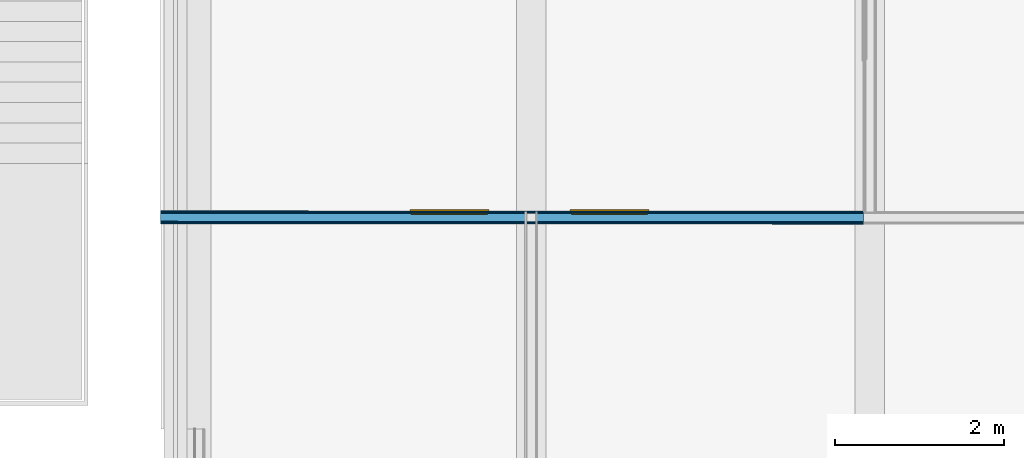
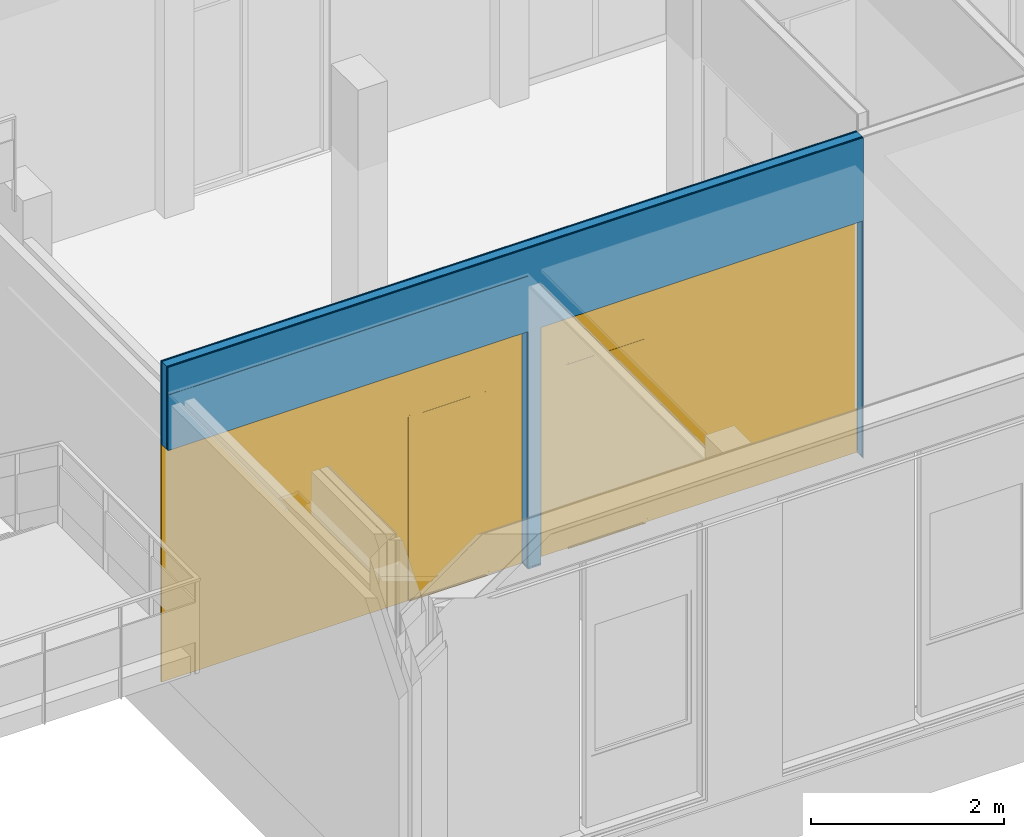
# One storey, part 76 of 94: 5 building element parts, 2 doors, 2 openings, 1 element without a shape of its own.
"""IFC2X3 building model written with IfcOpenShell, lengths in millimetres."""

from ifc_helpers import new_model, entity, si_unit, converted_unit, derived_unit, money_unit, direction, frame, origin_with_axes, place, context, subcontext, project, spatial, open_shell, faceted_brep, surface_model, material, type_object, element, fill, aggregate, save


model = new_model("IFC2X3")

# Units and contexts
model_context = context("Model", 3, precision=0.01, world=origin_with_axes(), true_north=direction((0.0, 1.0)))
body_context = subcontext(model_context, "Body", "Model", "MODEL_VIEW")
ifc_project = project(units=[si_unit("LENGTHUNIT", "METRE", prefix="MILLI"), si_unit("AREAUNIT", "SQUARE_METRE"), si_unit("VOLUMEUNIT", "CUBIC_METRE"), converted_unit("PLANEANGLEUNIT", "DEGREE", entity("IfcPlaneAngleMeasure", 0.0174532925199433), si_unit("PLANEANGLEUNIT", "RADIAN"), dimensions=[0, 0, 0, 0, 0, 0, 0]), money_unit("EUR"), converted_unit("TIMEUNIT", "Year", entity("IfcTimeMeasure", 31557600.0), si_unit("TIMEUNIT", "SECOND"), dimensions=[0, 0, 1, 0, 0, 0, 0]), si_unit("MASSUNIT", "GRAM", prefix="KILO"), si_unit("THERMODYNAMICTEMPERATUREUNIT", "DEGREE_CELSIUS"), si_unit("LUMINOUSINTENSITYUNIT", "LUMEN"), si_unit("ENERGYUNIT", "JOULE", prefix="MEGA"), derived_unit("THERMALCONDUCTANCEUNIT", [(si_unit("POWERUNIT", "WATT"), 1), (si_unit("LENGTHUNIT", "METRE"), -1), (si_unit("THERMODYNAMICTEMPERATUREUNIT", "KELVIN"), -1)]), derived_unit("SPECIFICHEATCAPACITYUNIT", [(si_unit("ENERGYUNIT", "JOULE"), 1), (si_unit("MASSUNIT", "GRAM", prefix="KILO"), -1), (si_unit("THERMODYNAMICTEMPERATUREUNIT", "KELVIN"), -1)]), derived_unit("MASSDENSITYUNIT", [(si_unit("MASSUNIT", "GRAM", prefix="KILO"), 1), (si_unit("VOLUMEUNIT", "CUBIC_METRE"), -1)])], contexts=[model_context])

# Site, building, storey
site_placement = place(None, origin_with_axes())
site = spatial("IfcSite", under=ifc_project, at=site_placement, Name="<site naam>", CompositionType="ELEMENT")
building_placement = place(site_placement, origin_with_axes())
building = spatial("IfcBuilding", under=site, at=building_placement, Name="<Naam gebouw>", CompositionType="ELEMENT")
storey_placement = place(building_placement, frame((0.0, 0.0, 4250.0), z_axis=(0.0, 0.0, 1.0), x_axis=(1.0, 0.0, 0.0)))
storey = spatial("IfcBuildingStorey", under=building, at=storey_placement, Name="01 1e verdieping", CompositionType="ELEMENT", Elevation=4250.0)

# Door
door_style = type_object("IfcDoorStyle", Name="D1 bl zl2 27", ConstructionType="NOTDEFINED", OperationType="USERDEFINED", ParameterTakesPrecedence=False, Sizeable=False)
wall_placement = place(storey_placement, frame((20000.00000000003, 4524.999967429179, 0.0), z_axis=(0.0, 0.0, 1.0), x_axis=(-0.9999997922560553, 0.0006445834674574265, 0.0)))
opening_2_placement = place(wall_placement, frame((2000.00002643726, 0.0, 0.0), z_axis=(0.0, 0.0, 1.0), x_axis=(1.0, 0.0, 0.0)))
door_1_placement = place(opening_2_placement, frame((1925.000026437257, 0.0, 0.0), z_axis=(0.0, 0.0, 1.0), x_axis=(-1.0, 0.0, 0.0)))
door_1 = element("IfcDoor", 1, at=door_1_placement, inside=storey, type_object=door_style, Name="22_BI-F-13_305", ObjectType="DOOR", OverallHeight=3000.0, OverallWidth=3850.0, context=body_context, shape_type="SurfaceModel", body=[
    faceted_brep([(1317.000000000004, -39.99999999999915, 0.0), (1300.000000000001, -39.99999999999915, 0.0), (1300.000000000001, -39.99999999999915, 11.99999999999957), (1317.000000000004, -39.99999999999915, 11.99999999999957), (383.0000000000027, -39.99999999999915, 0.0), (399.9999999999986, -39.99999999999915, 0.0), (400.0000000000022, -20.00000000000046, 0.0), (1300.000000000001, -19.99999999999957, 0.0), (1300.000000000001, -19.99999999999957, 11.99999999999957), (400.0000000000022, -20.00000000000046, 11.99999999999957), (399.9999999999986, -39.99999999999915, 11.99999999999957), (383.0000000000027, -39.99999999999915, 11.99999999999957)], [[[0, 1, 2, 3]], [[0, 4, 5, 6, 7, 1]], [[1, 7, 8, 2]], [[3, 2, 8, 9, 10, 11]], [[4, 0, 3, 11]], [[5, 4, 11, 10]], [[6, 5, 10, 9]], [[7, 6, 9, 8]]]),
    faceted_brep([(3850.000052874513, 0.0, 0.0), (3850.000052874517, -20.00000000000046, 0.0), (3817.000052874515, -20.00000000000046, 0.0), (3817.000052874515, 0.0, 0.0), (3850.000052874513, 0.0, 2967.0), (3850.000052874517, -20.00000000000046, 2967.0), (3817.000052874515, -20.00000000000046, 2967.0), (3817.000052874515, -20.00000000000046, 33.00000000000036), (3817.000052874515, 0.0, 33.00000000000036), (3817.000052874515, 0.0, 2967.0)], [[[0, 1, 2, 3]], [[4, 5, 1, 0]], [[1, 5, 6, 7, 2]], [[3, 2, 7, 8]], [[0, 3, 8, 9, 4]], [[9, 6, 5, 4]], [[8, 7, 6, 9]]]),
    faceted_brep([(1317.000000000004, -19.99999999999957, 0.0), (1341.999999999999, -20.00000000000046, 0.0), (1341.999999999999, -20.00000000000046, 32.99999999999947), (1341.999999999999, -20.00000000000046, 2967.0), (1300.000000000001, -20.00000000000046, 2967.0), (1300.000000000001, -20.00000000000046, 2333.0), (1300.000000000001, -20.00000000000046, 2317.0), (1317.000000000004, -19.99999999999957, 2317.0), (1317.000000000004, 0.0, 0.0), (1342.000000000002, 0.0, 0.0), (1342.000000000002, 0.0, 32.99999999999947), (1342.000000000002, 0.0, 2967.0), (1300.000000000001, 0.0, 2967.0), (1300.000000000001, 0.0, 2333.0), (1300.000000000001, 0.0, 2317.0), (1317.000000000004, 0.0, 2317.0)], [[[0, 1, 2, 3, 4, 5, 6, 7]], [[8, 9, 1, 0]], [[9, 10, 2, 1]], [[10, 11, 3, 2]], [[11, 12, 4, 3]], [[12, 13, 5, 4]], [[6, 5, 13, 14]], [[14, 15, 7, 6]], [[7, 15, 8, 0]], [[15, 14, 13, 12, 11, 10, 9, 8]]]),
    faceted_brep([(3817.000052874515, 0.0, 33.00000000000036), (3817.000052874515, -20.00000000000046, 33.00000000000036), (3817.000052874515, -20.00000000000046, 0.0), (3817.000052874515, 0.0, 0.0), (1342.000000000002, 0.0, 33.00000000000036), (1341.999999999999, -20.00000000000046, 33.00000000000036), (1341.999999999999, -20.00000000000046, 0.0), (1342.000000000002, 0.0, 0.0)], [[[0, 1, 2, 3]], [[4, 5, 1, 0]], [[1, 5, 6, 2]], [[3, 2, 6, 7]], [[0, 3, 7, 4]], [[7, 6, 5, 4]]]),
    faceted_brep([(0.0, 0.0, 0.0), (0.0, -19.99999999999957, 0.0), (0.0, -20.00000000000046, 2967.0), (0.0, 0.0, 2967.0), (33.00000000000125, 0.0, 0.0), (33.0000000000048, -19.99999999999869, 0.0), (33.0000000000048, -19.99999999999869, 33.00000000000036), (33.0000000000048, -19.99999999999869, 2967.0), (33.00000000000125, 0.0, 2967.0), (33.00000000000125, 0.0, 33.00000000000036)], [[[0, 1, 2, 3]], [[4, 5, 1, 0]], [[1, 5, 6, 7, 2]], [[3, 2, 7, 8]], [[0, 3, 8, 9, 4]], [[9, 6, 5, 4]], [[8, 7, 6, 9]]]),
    faceted_brep([(383.0000000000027, -19.99999999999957, 2317.0), (400.0000000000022, -20.00000000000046, 2317.0), (400.0000000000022, -20.00000000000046, 2333.0), (400.0000000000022, -20.00000000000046, 2967.0), (358.0000000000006, -19.99999999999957, 2967.0), (358.0000000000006, -19.99999999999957, 32.99999999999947), (358.0000000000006, -19.99999999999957, 0.0), (383.0000000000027, -19.99999999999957, 0.0), (382.9999999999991, 0.0, 2317.0), (400.0000000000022, 0.0, 2317.0), (400.0000000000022, 0.0, 2333.0), (400.0000000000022, 0.0, 2967.0), (358.0000000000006, 0.0, 2967.0), (358.0000000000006, 0.0, 32.99999999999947), (358.0000000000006, 0.0, 0.0), (382.9999999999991, 0.0, 0.0)], [[[0, 1, 2, 3, 4, 5, 6, 7]], [[0, 8, 9, 1]], [[9, 10, 2, 1]], [[10, 11, 3, 2]], [[11, 12, 4, 3]], [[12, 13, 5, 4]], [[13, 14, 6, 5]], [[7, 6, 14, 15]], [[7, 15, 8, 0]], [[8, 15, 14, 13, 12, 11, 10, 9]]]),
    faceted_brep([(358.0000000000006, 0.0, 33.00000000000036), (358.0000000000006, -19.99999999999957, 33.00000000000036), (358.0000000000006, -19.99999999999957, 0.0), (358.0000000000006, 0.0, 0.0), (33.00000000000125, 0.0, 33.00000000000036), (33.0000000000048, -19.99999999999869, 33.00000000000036), (33.0000000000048, -19.99999999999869, 0.0), (33.00000000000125, 0.0, 0.0)], [[[0, 1, 2, 3]], [[4, 5, 1, 0]], [[1, 5, 6, 2]], [[3, 2, 6, 7]], [[0, 3, 7, 4]], [[7, 6, 5, 4]]]),
    faceted_brep([(3850.000052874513, 0.0, 3000.0), (3850.000052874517, -20.00000000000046, 3000.0), (3850.000052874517, -20.00000000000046, 2967.0), (3850.000052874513, 0.0, 2967.0), (0.0, 0.0, 3000.0), (0.0, -20.00000000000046, 3000.0), (0.0, -20.00000000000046, 2967.0), (33.0000000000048, -19.99999999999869, 2967.0), (358.0000000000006, -19.99999999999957, 2967.0), (400.0000000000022, -20.00000000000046, 2967.0), (1300.000000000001, -20.00000000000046, 2967.0), (1341.999999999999, -20.00000000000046, 2967.0), (3817.000052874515, -20.00000000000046, 2967.0), (3817.000052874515, 0.0, 2967.0), (1342.000000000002, 0.0, 2967.0), (1300.000000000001, 0.0, 2967.0), (400.0000000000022, 0.0, 2967.0), (358.0000000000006, 0.0, 2967.0), (33.00000000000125, 0.0, 2967.0), (0.0, 0.0, 2967.0)], [[[0, 1, 2, 3]], [[4, 5, 1, 0]], [[1, 5, 6, 7, 8, 9, 10, 11, 12, 2]], [[3, 2, 12, 13]], [[0, 3, 13, 14, 15, 16, 17, 18, 19, 4]], [[19, 6, 5, 4]], [[18, 7, 6, 19]], [[17, 8, 7, 18]], [[16, 9, 8, 17]], [[15, 10, 9, 16]], [[14, 11, 10, 15]], [[13, 12, 11, 14]]]),
    faceted_brep([(1300.000000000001, -20.00000000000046, 2317.0), (1300.000000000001, -20.00000000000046, 2333.0), (400.0000000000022, -20.00000000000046, 2333.0), (400.0000000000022, -20.00000000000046, 2317.0), (1300.000000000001, 0.0, 2317.0), (1300.000000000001, 0.0, 2333.0), (400.0000000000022, 0.0, 2333.0), (400.0000000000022, 0.0, 2317.0)], [[[0, 1, 2, 3]], [[4, 5, 1, 0]], [[5, 6, 2, 1]], [[3, 2, 6, 7]], [[7, 4, 0, 3]], [[7, 6, 5, 4]]]),
    faceted_brep([(383.0000000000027, 18.00000000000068, 0.0), (1317.0, 17.99999999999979, 0.0), (1317.000000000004, -22.00000000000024, 0.0), (383.0000000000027, -21.99999999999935, 0.0), (383.0000000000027, 17.99999999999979, 2317.0), (1317.0, 17.99999999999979, 2317.0), (1317.000000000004, -22.00000000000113, 2317.0), (383.0000000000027, -21.99999999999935, 2317.0)], [[[0, 1, 2, 3]], [[0, 4, 5, 1]], [[1, 5, 6, 2]], [[3, 2, 6, 7]], [[4, 0, 3, 7]], [[5, 4, 7, 6]]]),
    surface_model("IfcShellBasedSurfaceModel", [(1300.000000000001, -25.9999999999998, 2333.0), (1300.000000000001, -25.9999999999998, 2967.0), (399.9999999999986, -25.9999999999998, 2967.0), (399.9999999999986, -25.9999999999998, 2333.0)], [open_shell([[[0, 1, 2, 3]]])]),
    surface_model("IfcShellBasedSurfaceModel", [(1300.000000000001, -13.99999999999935, 2333.0), (400.0000000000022, -13.99999999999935, 2333.0), (400.0000000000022, -13.99999999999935, 2967.0), (1300.000000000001, -13.99999999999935, 2967.0)], [open_shell([[[0, 1, 2, 3]]])]),
    surface_model("IfcShellBasedSurfaceModel", [(3817.000052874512, -26.00000000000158, 33.00000000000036), (3817.000052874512, -26.00000000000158, 2967.0), (1342.000000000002, -25.9999999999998, 2967.0), (1342.000000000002, -25.9999999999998, 33.00000000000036)], [open_shell([[[0, 1, 2, 3]]])]),
    surface_model("IfcShellBasedSurfaceModel", [(3817.000052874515, -14.00000000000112, 33.00000000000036), (1342.000000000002, -13.99999999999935, 33.00000000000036), (1342.000000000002, -14.00000000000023, 2967.0), (3817.000052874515, -14.00000000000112, 2967.0)], [open_shell([[[0, 1, 2, 3]]])]),
    surface_model("IfcShellBasedSurfaceModel", [(358.0000000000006, -25.9999999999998, 33.00000000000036), (358.0000000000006, -25.9999999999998, 2967.0), (33.0000000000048, -25.9999999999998, 2967.0), (33.0000000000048, -25.9999999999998, 33.00000000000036)], [open_shell([[[0, 1, 2, 3]]])]),
    surface_model("IfcShellBasedSurfaceModel", [(358.0000000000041, -13.99999999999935, 33.00000000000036), (33.0000000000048, -14.00000000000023, 33.00000000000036), (33.0000000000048, -14.00000000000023, 2967.0), (358.0000000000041, -13.99999999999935, 2967.0)], [open_shell([[[0, 1, 2, 3]]])]),
])

opening_1_placement = place(wall_placement, frame((6225.265598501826, 0.0, 0.0), z_axis=(0.0, 0.0, 1.0), x_axis=(1.0, 0.0, 0.0)))
door_2_placement = place(opening_1_placement, frame((2150.265651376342, 0.0, 0.0), z_axis=(0.0, 0.0, 1.0), x_axis=(-1.0, 0.0, 0.0)))
door_2 = element("IfcDoor", 2, at=door_2_placement, inside=storey, type_object=door_style, Name="22_BI-F-12_305", ObjectType="DOOR", OverallHeight=3000.0, OverallWidth=4300.53, context=body_context, shape_type="SurfaceModel", body=[
    faceted_brep([(2943.333089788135, -39.99999999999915, 0.0), (2943.333089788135, -39.99999999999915, 11.99999999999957), (2960.333089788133, -39.99999999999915, 11.99999999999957), (2960.333089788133, -39.99999999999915, 0.0), (3877.333089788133, -40.00000000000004, 0.0), (3877.333089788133, -40.00000000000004, 11.99999999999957), (3860.333089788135, -40.00000000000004, 11.99999999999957), (3860.333089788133, -19.99999999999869, 11.99999999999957), (2960.333089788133, -19.99999999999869, 11.99999999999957), (2960.333089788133, -19.99999999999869, 0.0), (3860.333089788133, -19.99999999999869, 0.0), (3860.333089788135, -40.00000000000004, 0.0)], [[[0, 1, 2, 3]], [[4, 5, 1, 0]], [[1, 5, 6, 7, 8, 2]], [[3, 2, 8, 9]], [[0, 3, 9, 10, 11, 4]], [[11, 6, 5, 4]], [[10, 7, 6, 11]], [[9, 8, 7, 10]]]),
    faceted_brep([(0.0, 0.0, 0.0), (33.00000000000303, 0.0, 0.0), (33.00000000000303, -19.9999999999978, 0.0), (0.0, -19.99999999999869, 0.0), (0.0, 0.0, 2967.0), (33.00000000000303, 0.0, 2967.0), (33.00000000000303, 0.0, 33.00000000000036), (33.00000000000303, -19.9999999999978, 33.00000000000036), (33.00000000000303, -19.9999999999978, 2967.0), (0.0, -19.99999999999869, 2967.0)], [[[0, 1, 2, 3]], [[0, 4, 5, 6, 1]], [[1, 6, 7, 2]], [[3, 2, 7, 8, 9]], [[4, 0, 3, 9]], [[5, 4, 9, 8]], [[6, 5, 8, 7]]]),
    faceted_brep([(2943.333089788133, -19.99999999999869, 0.0), (2943.333089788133, -19.99999999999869, 2317.0), (2960.333089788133, -19.99999999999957, 2317.0), (2960.333089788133, -19.99999999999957, 2333.0), (2960.333089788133, -19.99999999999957, 2967.0), (2918.333089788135, -19.99999999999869, 2967.0), (2918.333089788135, -19.99999999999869, 32.99999999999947), (2918.333089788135, -19.99999999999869, 0.0), (2943.333089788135, 0.0, 0.0), (2943.333089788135, 0.0, 2317.0), (2960.333089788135, 0.0, 2317.0), (2960.333089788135, 0.0, 2333.0), (2960.333089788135, 0.0, 2967.0), (2918.333089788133, 0.0, 2967.0), (2918.333089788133, 0.0, 32.99999999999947), (2918.333089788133, 0.0, 0.0)], [[[0, 1, 2, 3, 4, 5, 6, 7]], [[1, 0, 8, 9]], [[10, 2, 1, 9]], [[2, 10, 11, 3]], [[12, 4, 3, 11]], [[13, 5, 4, 12]], [[14, 6, 5, 13]], [[15, 7, 6, 14]], [[8, 0, 7, 15]], [[9, 8, 15, 14, 13, 12, 11, 10]]]),
    faceted_brep([(33.00000000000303, 0.0, 33.00000000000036), (33.00000000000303, 0.0, 0.0), (33.00000000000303, -19.9999999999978, 0.0), (33.00000000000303, -19.9999999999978, 33.00000000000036), (2918.333089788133, 0.0, 33.00000000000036), (2918.333089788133, 0.0, 0.0), (2918.333089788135, -19.99999999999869, 0.0), (2918.333089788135, -19.99999999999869, 33.00000000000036)], [[[0, 1, 2, 3]], [[0, 4, 5, 1]], [[1, 5, 6, 2]], [[3, 2, 6, 7]], [[4, 0, 3, 7]], [[5, 4, 7, 6]]]),
    faceted_brep([(4300.531302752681, 0.0, 0.0), (4300.531302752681, 0.0, 2967.0), (4300.531302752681, -19.99999999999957, 2967.0), (4300.531302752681, -19.99999999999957, 0.0), (4267.53130275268, 0.0, 0.0), (4267.53130275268, 0.0, 33.00000000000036), (4267.53130275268, 0.0, 2967.0), (4267.531302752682, -19.99999999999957, 2967.0), (4267.531302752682, -19.99999999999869, 33.00000000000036), (4267.531302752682, -19.99999999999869, 0.0)], [[[0, 1, 2, 3]], [[0, 4, 5, 6, 1]], [[1, 6, 7, 2]], [[3, 2, 7, 8, 9]], [[4, 0, 3, 9]], [[5, 4, 9, 8]], [[6, 5, 8, 7]]]),
    faceted_brep([(3877.333089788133, -19.99999999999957, 2317.0), (3877.333089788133, -19.99999999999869, 0.0), (3902.333089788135, -19.99999999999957, 0.0), (3902.333089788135, -19.99999999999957, 32.99999999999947), (3902.333089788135, -19.99999999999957, 2967.0), (3860.333089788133, -19.99999999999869, 2967.0), (3860.333089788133, -19.99999999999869, 2333.0), (3860.333089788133, -19.99999999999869, 2317.0), (3877.333089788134, 0.0, 2317.0), (3877.333089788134, 0.0, 0.0), (3902.333089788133, 0.0, 0.0), (3902.333089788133, 0.0, 32.99999999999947), (3902.333089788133, 0.0, 2967.0), (3860.333089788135, 0.0, 2967.0), (3860.333089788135, 0.0, 2333.0), (3860.333089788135, 0.0, 2317.0)], [[[0, 1, 2, 3, 4, 5, 6, 7]], [[1, 0, 8, 9]], [[1, 9, 10, 2]], [[11, 3, 2, 10]], [[12, 4, 3, 11]], [[13, 5, 4, 12]], [[14, 6, 5, 13]], [[15, 7, 6, 14]], [[0, 7, 15, 8]], [[8, 15, 14, 13, 12, 11, 10, 9]]]),
    faceted_brep([(3902.333089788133, 0.0, 33.00000000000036), (3902.333089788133, 0.0, 0.0), (3902.333089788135, -19.99999999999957, 0.0), (3902.333089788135, -19.99999999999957, 33.00000000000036), (4267.53130275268, 0.0, 33.00000000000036), (4267.53130275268, 0.0, 0.0), (4267.531302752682, -19.99999999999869, 0.0), (4267.531302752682, -19.99999999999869, 33.00000000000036)], [[[0, 1, 2, 3]], [[0, 4, 5, 1]], [[1, 5, 6, 2]], [[3, 2, 6, 7]], [[4, 0, 3, 7]], [[5, 4, 7, 6]]]),
    faceted_brep([(0.0, 0.0, 3000.0), (0.0, 0.0, 2967.0), (0.0, -19.99999999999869, 2967.0), (0.0, -19.99999999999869, 3000.0), (4300.531302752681, 0.0, 3000.0), (4300.531302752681, 0.0, 2967.0), (4267.53130275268, 0.0, 2967.0), (3902.333089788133, 0.0, 2967.0), (3860.333089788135, 0.0, 2967.0), (2960.333089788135, 0.0, 2967.0), (2918.333089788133, 0.0, 2967.0), (33.00000000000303, 0.0, 2967.0), (33.00000000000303, -19.9999999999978, 2967.0), (2918.333089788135, -19.99999999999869, 2967.0), (2960.333089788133, -19.99999999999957, 2967.0), (3860.333089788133, -19.99999999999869, 2967.0), (3902.333089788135, -19.99999999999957, 2967.0), (4267.531302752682, -19.99999999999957, 2967.0), (4300.531302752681, -19.99999999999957, 2967.0), (4300.531302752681, -19.99999999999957, 3000.0)], [[[0, 1, 2, 3]], [[0, 4, 5, 6, 7, 8, 9, 10, 11, 1]], [[1, 11, 12, 2]], [[3, 2, 12, 13, 14, 15, 16, 17, 18, 19]], [[4, 0, 3, 19]], [[5, 4, 19, 18]], [[6, 5, 18, 17]], [[7, 6, 17, 16]], [[8, 7, 16, 15]], [[9, 8, 15, 14]], [[10, 9, 14, 13]], [[11, 10, 13, 12]]]),
    faceted_brep([(2960.333089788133, -19.99999999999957, 2317.0), (3860.333089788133, -19.99999999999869, 2317.0), (3860.333089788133, -19.99999999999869, 2333.0), (2960.333089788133, -19.99999999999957, 2333.0), (3860.333089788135, 0.0, 2317.0), (2960.333089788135, 0.0, 2317.0), (3860.333089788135, 0.0, 2333.0), (2960.333089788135, 0.0, 2333.0)], [[[0, 1, 2, 3]], [[4, 1, 0, 5]], [[1, 4, 6, 2]], [[7, 3, 2, 6]], [[5, 0, 3, 7]], [[4, 5, 7, 6]]]),
    faceted_brep([(3877.333089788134, 18.00000000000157, 0.0), (3877.333089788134, -22.00000000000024, 0.0), (2943.333089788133, -21.99999999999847, 0.0), (2943.333089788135, 18.00000000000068, 0.0), (3877.333089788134, 18.00000000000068, 2317.0), (3877.333089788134, -22.00000000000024, 2317.0), (2943.333089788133, -21.99999999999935, 2317.0), (2943.333089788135, 18.00000000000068, 2317.0)], [[[0, 1, 2, 3]], [[4, 5, 1, 0]], [[1, 5, 6, 2]], [[3, 2, 6, 7]], [[0, 3, 7, 4]], [[7, 6, 5, 4]]]),
    surface_model("IfcShellBasedSurfaceModel", [(2960.333089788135, -25.9999999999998, 2333.0), (3860.333089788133, -25.9999999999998, 2333.0), (3860.333089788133, -25.9999999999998, 2967.0), (2960.333089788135, -25.9999999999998, 2967.0)], [open_shell([[[0, 1, 2, 3]]])]),
    surface_model("IfcShellBasedSurfaceModel", [(2960.333089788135, -13.99999999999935, 2333.0), (2960.333089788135, -13.99999999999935, 2967.0), (3860.333089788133, -13.99999999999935, 2967.0), (3860.333089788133, -13.99999999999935, 2333.0)], [open_shell([[[0, 1, 2, 3]]])]),
    surface_model("IfcShellBasedSurfaceModel", [(33.00000000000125, -25.99999999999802, 33.00000000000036), (2918.333089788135, -25.99999999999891, 33.00000000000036), (2918.333089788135, -25.9999999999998, 2967.0), (33.00000000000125, -25.99999999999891, 2967.0)], [open_shell([[[0, 1, 2, 3]]])]),
    surface_model("IfcShellBasedSurfaceModel", [(33.00000000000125, -13.99999999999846, 33.00000000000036), (33.00000000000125, -13.99999999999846, 2967.0), (2918.333089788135, -13.99999999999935, 2967.0), (2918.333089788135, -13.99999999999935, 33.00000000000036)], [open_shell([[[0, 1, 2, 3]]])]),
    surface_model("IfcShellBasedSurfaceModel", [(3902.333089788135, -25.9999999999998, 33.00000000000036), (4267.531302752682, -25.9999999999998, 33.00000000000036), (4267.531302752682, -25.9999999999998, 2967.0), (3902.333089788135, -25.9999999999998, 2967.0)], [open_shell([[[0, 1, 2, 3]]])]),
    surface_model("IfcShellBasedSurfaceModel", [(3902.333089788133, -13.99999999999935, 33.00000000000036), (3902.333089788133, -13.99999999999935, 2967.0), (4267.531302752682, -13.99999999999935, 2967.0), (4267.531302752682, -13.99999999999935, 33.00000000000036)], [open_shell([[[0, 1, 2, 3]]])]),
])

# Wall, opening
wall_type = type_object("IfcWallType", Name="MS-01 GF 150 ECO DGS/2.100.2.A 150", PredefinedType="NOTDEFINED")
wall = element("IfcWall", 3, at=wall_placement, inside=storey, type_object=wall_type, Name="22_Binnenwand_MS-01")
opening_1 = element("IfcOpeningElement", 4, at=opening_1_placement, cuts=wall, Name="22_BI-F-12_305", context=body_context, shape_type="Brep", body=[
    faceted_brep([(2150.265651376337, 156.3987278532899, 3000.0), (2150.265651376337, 156.3987278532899, 0.0), (-2150.26565137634, 156.3987278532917, 0.0), (-2150.26565137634, 156.3987278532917, 3000.0), (2150.265651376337, -6.398727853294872, 3000.0), (2150.265651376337, -6.398727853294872, 0.0), (-2150.265651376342, -6.398727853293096, 0.0), (-2150.265651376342, -6.398727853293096, 3000.0)], [[[0, 1, 2, 3]], [[4, 5, 1, 0]], [[5, 6, 2, 1]], [[6, 7, 3, 2]], [[7, 4, 0, 3]], [[6, 5, 4, 7]]]),
])

fill(opening_1, door_2)

# Opening
opening_2 = element("IfcOpeningElement", 5, at=opening_2_placement, cuts=wall, Name="22_BI-F-13_305", context=body_context, shape_type="Brep", body=[
    faceted_brep([(1925.000026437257, 156.3987278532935, 3000.0), (1925.000026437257, 156.3987278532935, 0.0), (-1925.000026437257, 156.3987278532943, 0.0), (-1925.000026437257, 156.3987278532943, 3000.0), (1925.000026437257, -6.398727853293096, 3000.0), (1925.000026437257, -6.398727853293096, 0.0), (-1925.000026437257, -6.398727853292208, 0.0), (-1925.000026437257, -6.398727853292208, 3000.0)], [[[0, 1, 2, 3]], [[4, 5, 1, 0]], [[5, 6, 2, 1]], [[6, 7, 3, 2]], [[7, 4, 0, 3]], [[6, 5, 4, 7]]]),
])

fill(opening_2, door_1)

# Building element part
ifc_material_1 = material(Name="gipsplaat")
building_element_part_1_placement = place(wall_placement, origin_with_axes())
building_element_part_1 = element("IfcBuildingElementPart", 6, at=building_element_part_1_placement, material=ifc_material_1, Name="gipsplaat", context=body_context, shape_type="Brep", body=[
    faceted_brep([(74.9113853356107, 137.4999999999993, 22.99999999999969), (74.91944263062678, 124.9999999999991, 22.99999999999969), (74.91944263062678, 124.9999999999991, 4050.000000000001), (74.9113853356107, 137.4999999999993, 4050.000000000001), (8064.921150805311, 124.9999999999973, 22.99999999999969), (8064.913093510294, 137.4999999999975, 22.99999999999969), (8064.921150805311, 124.9999999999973, 19.99999999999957), (74.91944263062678, 124.9999999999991, 19.99999999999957), (74.91944263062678, 124.9999999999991, 0.0), (8375.53124987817, 124.9999999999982, 0.0), (8375.53124987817, 124.9999999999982, 4050.000000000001), (8375.53124987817, 137.4999999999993, 4050.000000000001), (8375.53124987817, 137.4999999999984, 0.0), (74.9113853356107, 137.4999999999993, 0.0), (74.9113853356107, 137.4999999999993, 19.99999999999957), (8064.913093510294, 137.4999999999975, 19.99999999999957)], [[[0, 1, 2, 3]], [[4, 1, 0, 5]], [[6, 7, 8, 9, 10, 2, 1, 4]], [[3, 2, 10, 11]], [[5, 0, 3, 11, 12, 13, 14, 15]], [[6, 4, 5, 15]], [[14, 7, 6, 15]], [[7, 14, 13, 8]], [[8, 13, 12, 9]], [[12, 11, 10, 9]]]),
])

building_element_part_2_placement = place(wall_placement, origin_with_axes())
building_element_part_2 = element("IfcBuildingElementPart", 7, at=building_element_part_2_placement, material=ifc_material_1, Name="gipsplaat", context=body_context, shape_type="Brep", body=[
    faceted_brep([(8064.905036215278, 149.9999999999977, 22.99999999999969), (74.90332804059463, 149.9999999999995, 22.99999999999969), (74.90332804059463, 150.0000000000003, 4050.000000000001), (8375.53124987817, 149.9999999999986, 4050.000000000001), (8375.53124987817, 149.9999999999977, 0.0), (74.90332804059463, 149.9999999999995, 0.0), (74.90332804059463, 149.9999999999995, 19.99999999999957), (8064.905036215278, 149.9999999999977, 19.99999999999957), (8373.287060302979, 149.9999999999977, 3700.0), (8373.287060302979, 149.9999999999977, 3740.0), (4074.904159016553, 149.9999999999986, 3740.0), (4074.904159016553, 149.9999999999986, 3700.0), (8064.913093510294, 137.4999999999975, 22.99999999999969), (74.9113853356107, 137.4999999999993, 22.99999999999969), (74.9113853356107, 137.4999999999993, 4050.000000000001), (8375.53124987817, 137.4999999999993, 4050.000000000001), (8375.53124987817, 137.4999999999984, 0.0), (74.9113853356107, 137.4999999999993, 0.0), (74.9113853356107, 137.4999999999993, 19.99999999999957), (8064.913093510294, 137.4999999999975, 19.99999999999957), (8373.290034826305, 145.385356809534, 3700.0), (8373.290034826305, 145.385356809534, 3740.0), (4074.908919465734, 142.6146908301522, 3740.0), (4074.908919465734, 142.6146908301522, 3700.0)], [[[0, 1, 2, 3, 4, 5, 6, 7], [8, 9, 10, 11]], [[12, 13, 1, 0]], [[1, 13, 14, 2]], [[2, 14, 15, 3]], [[4, 3, 15, 16]], [[17, 5, 4, 16]], [[18, 6, 5, 17]], [[6, 18, 19, 7]], [[19, 12, 0, 7]], [[9, 8, 20, 21]], [[10, 9, 21, 22]], [[11, 10, 22, 23]], [[8, 11, 23, 20]], [[19, 18, 17, 16, 15, 14, 13, 12]], [[23, 22, 21, 20]]]),
])

ifc_material_2 = material(Name="isolatie_steenwol LSW")
building_element_part_3_placement = place(wall_placement, origin_with_axes())
building_element_part_3 = element("IfcBuildingElementPart", 8, at=building_element_part_3_placement, material=ifc_material_2, Name="isolatie_steenwol LSW", context=body_context, shape_type="Brep", body=[
    faceted_brep([(74.91944263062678, 124.9999999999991, 22.99999999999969), (74.98386983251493, 25.04833856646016, 22.99999999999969), (74.98386983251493, 25.04833856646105, 4050.000000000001), (74.91944263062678, 124.9999999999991, 4050.000000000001), (174.9838490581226, 25.11279691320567, 22.99999999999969), (8064.921150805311, 124.9999999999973, 22.99999999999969), (8064.985609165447, 24.99999999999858, 22.99999999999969), (174.9839217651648, 24.99999999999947, 22.99999999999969), (174.9838490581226, 25.11279691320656, 4050.000000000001), (174.9839217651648, 25.00000000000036, 4050.000000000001), (8375.53124987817, 24.99999999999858, 4050.000000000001), (8375.53124987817, 124.9999999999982, 4050.000000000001), (8375.53124987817, 124.9999999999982, 0.0), (74.91944263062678, 124.9999999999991, 0.0), (74.91944263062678, 124.9999999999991, 19.99999999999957), (8064.921150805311, 124.9999999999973, 19.99999999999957), (8064.985609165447, 24.99999999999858, 19.99999999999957), (174.9839217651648, 24.99999999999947, 19.99999999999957), (174.9839217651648, 24.99999999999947, 0.0), (8375.53124987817, 24.99999999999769, 0.0), (174.9838490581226, 25.11279691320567, 0.0), (74.98386983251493, 25.04833856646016, 0.0), (74.98386983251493, 25.04833856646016, 19.99999999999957), (174.9838490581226, 25.11279691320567, 19.99999999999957)], [[[0, 1, 2, 3]], [[4, 1, 0, 5, 6, 7]], [[1, 4, 8, 2]], [[2, 8, 9, 10, 11, 3]], [[5, 0, 3, 11, 12, 13, 14, 15]], [[16, 6, 5, 15]], [[16, 17, 18, 19, 10, 9, 7, 6]], [[4, 7, 9, 8]], [[12, 11, 10, 19]], [[18, 20, 21, 13, 12, 19]], [[22, 14, 13, 21]], [[14, 22, 23, 17, 16, 15]], [[17, 23, 20, 18]], [[23, 22, 21, 20]]]),
])

building_element_part_4_placement = place(wall_placement, origin_with_axes())
building_element_part_4 = element("IfcBuildingElementPart", 9, at=building_element_part_4_placement, material=ifc_material_1, Name="gipsplaat", context=body_context, shape_type="Brep", body=[
    faceted_brep([(74.98390099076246, 24.99999999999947, 22.99999999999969), (74.99195828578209, 12.50000000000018, 22.99999999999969), (74.99195828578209, 12.50000000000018, 4050.000000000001), (74.98390099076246, 25.00000000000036, 4050.000000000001), (8064.993666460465, 12.4999999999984, 22.99999999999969), (8064.985609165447, 24.99999999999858, 22.99999999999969), (8064.993666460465, 12.4999999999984, 19.99999999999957), (74.99195828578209, 12.50000000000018, 19.99999999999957), (74.99195828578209, 12.50000000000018, 0.0), (8375.531249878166, 12.49999999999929, 0.0), (8375.531249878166, 12.49999999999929, 4050.000000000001), (8375.531249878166, 24.99999999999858, 4050.000000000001), (8375.531249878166, 24.99999999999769, 0.0), (74.98390099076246, 24.99999999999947, 0.0), (74.98390099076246, 24.99999999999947, 19.99999999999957), (8064.985609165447, 24.99999999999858, 19.99999999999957)], [[[0, 1, 2, 3]], [[4, 1, 0, 5]], [[6, 7, 8, 9, 10, 2, 1, 4]], [[3, 2, 10, 11]], [[5, 0, 3, 11, 12, 13, 14, 15]], [[6, 4, 5, 15]], [[14, 7, 6, 15]], [[7, 14, 13, 8]], [[8, 13, 12, 9]], [[12, 11, 10, 9]]]),
])

building_element_part_5_placement = place(wall_placement, origin_with_axes())
building_element_part_5 = element("IfcBuildingElementPart", 10, at=building_element_part_5_placement, material=ifc_material_1, Name="gipsplaat", context=body_context, shape_type="Brep", body=[
    faceted_brep([(74.99998441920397, 0.04834376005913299, 22.99999999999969), (74.99998441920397, 0.04834376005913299, 19.99999999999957), (74.99195828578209, 12.50000000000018, 19.99999999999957), (74.99195828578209, 12.50000000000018, 0.0), (74.99998441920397, 0.04834376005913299, 0.0), (74.99998441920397, 0.04834376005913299, 3.000000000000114), (75.00001558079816, 0.0, 3.000000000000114), (75.00001558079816, 0.0, 3000.0), (74.99998441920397, 0.04834376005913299, 3000.0), (74.99998441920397, 0.04834376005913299, 3040.0), (75.00001558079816, 0.0, 3040.0), (75.00001558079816, 0.0, 4050.000000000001), (74.99195828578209, 12.50000000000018, 4050.000000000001), (74.99195828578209, 12.50000000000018, 22.99999999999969), (8064.998372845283, 5.198565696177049, 19.99999999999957), (8064.998372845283, 5.198565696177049, 22.99999999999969), (8064.993666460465, 12.4999999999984, 19.99999999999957), (8064.993666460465, 12.4999999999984, 22.99999999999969), (8375.531249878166, 12.49999999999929, 4050.000000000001), (8375.531249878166, 12.49999999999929, 0.0), (8375.531249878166, 0.0, 0.0), (8065.001720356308, 0.0, 0.0), (8064.998369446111, 5.198565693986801, 0.0), (8064.998369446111, 5.198565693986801, 3.000000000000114), (8065.001720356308, 0.0, 3.000000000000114), (8375.531224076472, -1.663291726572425e-08, 3000.0), (8375.527744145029, 5.398727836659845, 3000.0), (8375.527744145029, 5.398727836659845, 3040.0), (8375.531224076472, -1.663291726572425e-08, 3040.0), (8375.531249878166, 0.0, 4050.000000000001)], [[[0, 1, 2, 3, 4, 5, 6, 7, 8, 9, 10, 11, 12, 13]], [[14, 1, 0, 15]], [[16, 2, 1, 14]], [[16, 17, 13, 12, 18, 19, 3, 2]], [[20, 21, 22, 4, 3, 19]], [[22, 23, 5, 4]], [[5, 23, 24, 6]], [[7, 6, 24, 21, 20, 25]], [[7, 25, 26, 8]], [[8, 26, 27, 9]], [[10, 9, 27, 28]], [[28, 29, 11, 10]], [[18, 12, 11, 29]], [[15, 0, 13, 17]], [[15, 17, 16, 14]], [[19, 18, 29, 28, 25, 20]], [[23, 22, 21, 24]], [[28, 27, 26, 25]]]),
])

aggregate(wall, [building_element_part_1, building_element_part_2, building_element_part_3, building_element_part_4, building_element_part_5])

save(model, "model.ifc")
